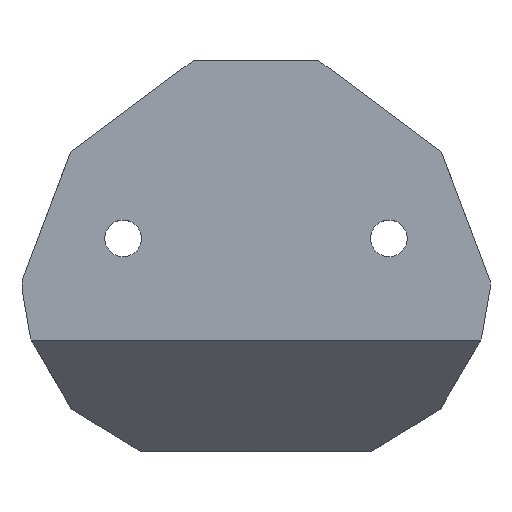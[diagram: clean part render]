
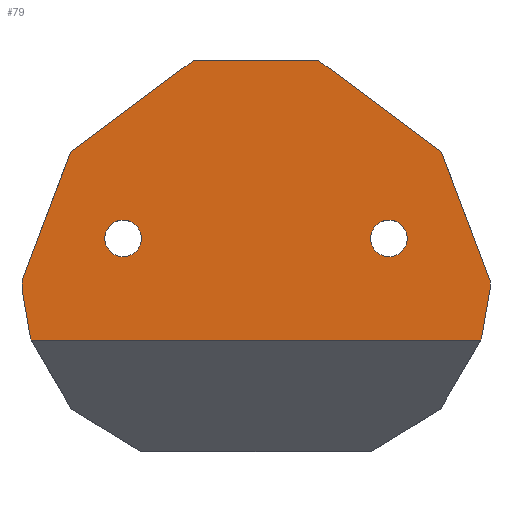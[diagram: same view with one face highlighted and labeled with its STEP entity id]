
A CAD part, top view. The second image highlights one B-rep face of the part: STEP entity #79.
In plain terms, the highlighted planar face has unit normal (0, 0, 1).
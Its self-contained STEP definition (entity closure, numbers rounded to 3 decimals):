
#79 = ADVANCED_FACE( '', ( #165, #166, #167 ), #168, .T. );
#165 = FACE_BOUND( '', #259, .T. );
#166 = FACE_BOUND( '', #260, .T. );
#167 = FACE_OUTER_BOUND( '', #261, .T. );
#168 = PLANE( '', #262 );
#259 = EDGE_LOOP( '', ( #430 ) );
#260 = EDGE_LOOP( '', ( #431 ) );
#261 = EDGE_LOOP( '', ( #432, #433, #434, #435, #436, #437, #438, #439, #440, #441, #442, #443 ) );
#262 = AXIS2_PLACEMENT_3D( '', #444, #445, #446 );
#430 = ORIENTED_EDGE( '', *, *, #585, .F. );
#431 = ORIENTED_EDGE( '', *, *, #626, .F. );
#432 = ORIENTED_EDGE( '', *, *, #627, .T. );
#433 = ORIENTED_EDGE( '', *, *, #575, .F. );
#434 = ORIENTED_EDGE( '', *, *, #628, .T. );
#435 = ORIENTED_EDGE( '', *, *, #609, .T. );
#436 = ORIENTED_EDGE( '', *, *, #629, .T. );
#437 = ORIENTED_EDGE( '', *, *, #630, .T. );
#438 = ORIENTED_EDGE( '', *, *, #631, .T. );
#439 = ORIENTED_EDGE( '', *, *, #591, .T. );
#440 = ORIENTED_EDGE( '', *, *, #632, .T. );
#441 = ORIENTED_EDGE( '', *, *, #624, .T. );
#442 = ORIENTED_EDGE( '', *, *, #633, .T. );
#443 = ORIENTED_EDGE( '', *, *, #634, .T. );
#444 = CARTESIAN_POINT( '', ( 0., 0., 0. ) );
#445 = DIRECTION( '', ( 0., 0., 1. ) );
#446 = DIRECTION( '', ( 1., 0., 0. ) );
#575 = EDGE_CURVE( '', #689, #691, #692, .T. );
#585 = EDGE_CURVE( '', #707, #707, #708, .T. );
#591 = EDGE_CURVE( '', #713, #717, #719, .T. );
#609 = EDGE_CURVE( '', #742, #744, #746, .T. );
#624 = EDGE_CURVE( '', #762, #765, #767, .T. );
#626 = EDGE_CURVE( '', #769, #769, #770, .T. );
#627 = EDGE_CURVE( '', #771, #691, #772, .T. );
#628 = EDGE_CURVE( '', #689, #742, #773, .T. );
#629 = EDGE_CURVE( '', #744, #774, #775, .T. );
#630 = EDGE_CURVE( '', #774, #776, #777, .T. );
#631 = EDGE_CURVE( '', #776, #713, #778, .T. );
#632 = EDGE_CURVE( '', #717, #762, #779, .T. );
#633 = EDGE_CURVE( '', #765, #780, #781, .T. );
#634 = EDGE_CURVE( '', #780, #771, #782, .T. );
#689 = VERTEX_POINT( '', #849 );
#691 = VERTEX_POINT( '', #852 );
#692 = LINE( '', #853, #854 );
#707 = VERTEX_POINT( '', #872 );
#708 = CIRCLE( '', #873, 2.625 );
#713 = VERTEX_POINT( '', #878 );
#717 = VERTEX_POINT( '', #884 );
#719 = LINE( '', #887, #888 );
#742 = VERTEX_POINT( '', #922 );
#744 = VERTEX_POINT( '', #925 );
#746 = LINE( '', #928, #929 );
#762 = VERTEX_POINT( '', #952 );
#765 = VERTEX_POINT( '', #957 );
#767 = LINE( '', #960, #961 );
#769 = VERTEX_POINT( '', #963 );
#770 = CIRCLE( '', #964, 2.625 );
#771 = VERTEX_POINT( '', #965 );
#772 = LINE( '', #966, #967 );
#773 = LINE( '', #968, #969 );
#774 = VERTEX_POINT( '', #970 );
#775 = LINE( '', #971, #972 );
#776 = VERTEX_POINT( '', #973 );
#777 = LINE( '', #974, #975 );
#778 = LINE( '', #976, #977 );
#779 = LINE( '', #978, #979 );
#780 = VERTEX_POINT( '', #980 );
#781 = LINE( '', #981, #982 );
#782 = LINE( '', #983, #984 );
#849 = CARTESIAN_POINT( '', ( 51.098, -14.592, 0. ) );
#852 = CARTESIAN_POINT( '', ( -13.098, -14.592, 0. ) );
#853 = CARTESIAN_POINT( '', ( 55., -14.592, 0. ) );
#854 = VECTOR( '', #1041, 1000. );
#872 = CARTESIAN_POINT( '', ( 2.625, 0., 0. ) );
#873 = AXIS2_PLACEMENT_3D( '', #1057, #1058, #1059 );
#878 = CARTESIAN_POINT( '', ( 27.858, 25.5, 0. ) );
#884 = CARTESIAN_POINT( '', ( 10.142, 25.5, 0. ) );
#887 = CARTESIAN_POINT( '', ( 27.858, 25.5, 0. ) );
#888 = VECTOR( '', #1066, 1000. );
#922 = CARTESIAN_POINT( '', ( 51.229, -14.368, 0. ) );
#925 = CARTESIAN_POINT( '', ( 52.45, -7.269, 0. ) );
#928 = CARTESIAN_POINT( '', ( 51.229, -14.368, 0. ) );
#929 = VECTOR( '', #1080, 1000. );
#952 = CARTESIAN_POINT( '', ( -7.516, 12.348, 0. ) );
#957 = CARTESIAN_POINT( '', ( -14.45, -6.069, 0. ) );
#960 = CARTESIAN_POINT( '', ( -7.516, 12.348, 0. ) );
#961 = VECTOR( '', #1091, 1000. );
#963 = CARTESIAN_POINT( '', ( 40.625, 0., 0. ) );
#964 = AXIS2_PLACEMENT_3D( '', #1092, #1093, #1094 );
#965 = CARTESIAN_POINT( '', ( -13.229, -14.368, 0. ) );
#966 = CARTESIAN_POINT( '', ( -13.229, -14.368, 0. ) );
#967 = VECTOR( '', #1095, 1000. );
#968 = CARTESIAN_POINT( '', ( 45.371, -24.385, 0. ) );
#969 = VECTOR( '', #1096, 1000. );
#970 = CARTESIAN_POINT( '', ( 52.45, -6.069, 0. ) );
#971 = CARTESIAN_POINT( '', ( 52.45, -7.269, 0. ) );
#972 = VECTOR( '', #1097, 1000. );
#973 = CARTESIAN_POINT( '', ( 45.516, 12.348, 0. ) );
#974 = CARTESIAN_POINT( '', ( 52.45, -6.069, 0. ) );
#975 = VECTOR( '', #1098, 1000. );
#976 = CARTESIAN_POINT( '', ( 45.516, 12.348, 0. ) );
#977 = VECTOR( '', #1099, 1000. );
#978 = CARTESIAN_POINT( '', ( 10.142, 25.5, 0. ) );
#979 = VECTOR( '', #1100, 1000. );
#980 = CARTESIAN_POINT( '', ( -14.45, -7.269, 0. ) );
#981 = CARTESIAN_POINT( '', ( -14.45, -6.069, 0. ) );
#982 = VECTOR( '', #1101, 1000. );
#983 = CARTESIAN_POINT( '', ( -14.45, -7.269, 0. ) );
#984 = VECTOR( '', #1102, 1000. );
#1041 = DIRECTION( '', ( -1., 0., 0. ) );
#1057 = CARTESIAN_POINT( '', ( 0., 0., 0. ) );
#1058 = DIRECTION( '', ( 0., 0., 1. ) );
#1059 = DIRECTION( '', ( 1., 0., 0. ) );
#1066 = DIRECTION( '', ( -1., 0., 0. ) );
#1080 = DIRECTION( '', ( 0.17, 0.986, 0. ) );
#1091 = DIRECTION( '', ( -0.352, -0.936, 0. ) );
#1092 = CARTESIAN_POINT( '', ( 38., 0., 0. ) );
#1093 = DIRECTION( '', ( 0., 0., 1. ) );
#1094 = DIRECTION( '', ( 1., 0., 0. ) );
#1095 = DIRECTION( '', ( 0.505, -0.863, 0. ) );
#1096 = DIRECTION( '', ( 0.505, 0.863, 0. ) );
#1097 = DIRECTION( '', ( 0., 1., 0. ) );
#1098 = DIRECTION( '', ( -0.352, 0.936, 0. ) );
#1099 = DIRECTION( '', ( -0.802, 0.597, 0. ) );
#1100 = DIRECTION( '', ( -0.802, -0.597, 0. ) );
#1101 = DIRECTION( '', ( 0., -1., 0. ) );
#1102 = DIRECTION( '', ( 0.17, -0.986, 0. ) );
